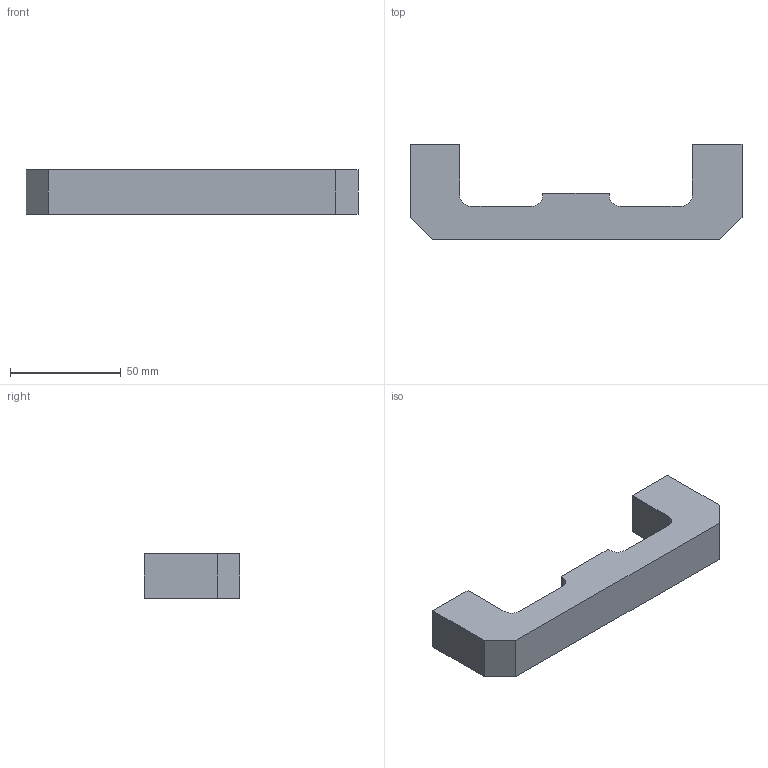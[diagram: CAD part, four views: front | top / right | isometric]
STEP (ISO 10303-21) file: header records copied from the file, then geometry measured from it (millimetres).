
FILE_DESCRIPTION (( 'STEP AP203' ), '1' );
FILE_NAME ('butee.STEP', '2009-12-04T11:18:59', ( 'Famille Couzi' ), ( '' ), 'SwSTEP 2.0', 'SolidWorks 2005143', '' );
FILE_SCHEMA (( 'CONFIG_CONTROL_DESIGN' ));
Length unit declared in the file: millimetre
Products named in the file (1): butee
Bounding box: 150 x 43 x 20 mm (x, y, z)
Volume: 72229.2 mm3; surface area: 15896.9 mm2
Topology: 1 solids, 1 shells, 20 faces, 54 edges, 36 vertices
Faces by surface type: plane 16, cylinder 4
Entity records: 703 total; most frequent: CARTESIAN_POINT 111, ORIENTED_EDGE 108, DIRECTION 104, EDGE_CURVE 54, VECTOR 46, LINE 46, VERTEX_POINT 36, AXIS2_PLACEMENT_3D 29
